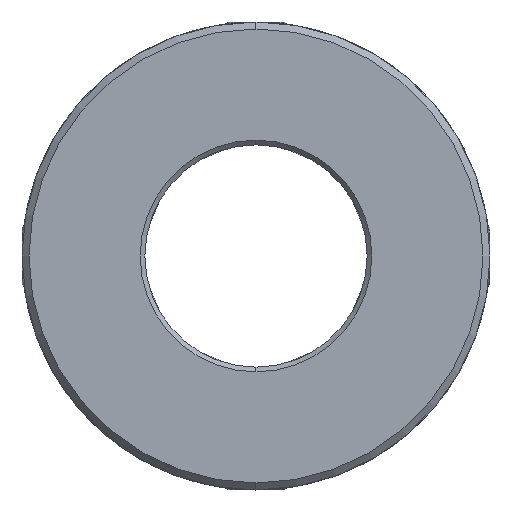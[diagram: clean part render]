
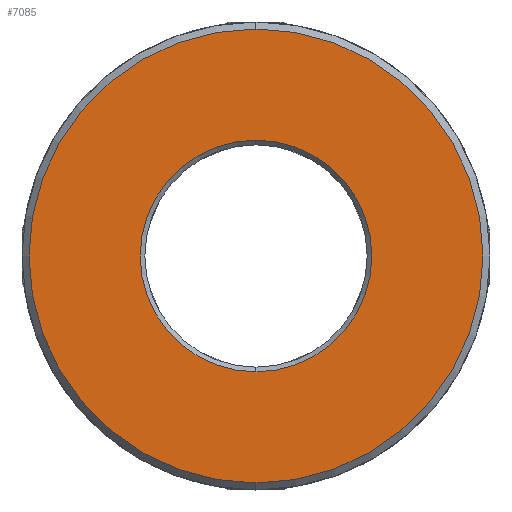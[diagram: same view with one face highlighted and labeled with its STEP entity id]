
A CAD part, front view. The second image highlights one B-rep face of the part: STEP entity #7085.
In plain terms, the highlighted planar face has unit normal (0, -1, 0).
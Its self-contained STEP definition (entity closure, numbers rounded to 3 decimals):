
#23 = AXIS2_PLACEMENT_3D ( 'NONE', #7135, #7733, #4127 ) ;
#58 = CARTESIAN_POINT ( 'NONE',  ( 0., 0., -9.9 ) ) ;
#195 = CARTESIAN_POINT ( 'NONE',  ( 0., 0., -19.4 ) ) ;
#216 = DIRECTION ( 'NONE',  ( 0., -1., 0. ) ) ;
#452 = EDGE_CURVE ( 'NONE', #3151, #5383, #6560, .T. ) ;
#910 = AXIS2_PLACEMENT_3D ( 'NONE', #5288, #5834, #6461 ) ;
#1114 = AXIS2_PLACEMENT_3D ( 'NONE', #4334, #3220, #4354 ) ;
#1915 = ORIENTED_EDGE ( 'NONE', *, *, #5166, .T. ) ;
#2946 = CARTESIAN_POINT ( 'NONE',  ( 0., 0., 19.4 ) ) ;
#3066 = EDGE_CURVE ( 'NONE', #5383, #3151, #5753, .T. ) ;
#3151 = VERTEX_POINT ( 'NONE', #58 ) ;
#3171 = CARTESIAN_POINT ( 'NONE',  ( 0., 0., 0. ) ) ;
#3220 = DIRECTION ( 'NONE',  ( 0., 1., 0. ) ) ;
#3273 = AXIS2_PLACEMENT_3D ( 'NONE', #7153, #3628, #4805 ) ;
#3628 = DIRECTION ( 'NONE',  ( 0., -1., 0. ) ) ;
#3704 = FACE_OUTER_BOUND ( 'NONE', #4908, .T. ) ;
#3803 = FACE_BOUND ( 'NONE', #4434, .T. ) ;
#4073 = CIRCLE ( 'NONE', #4167, 19.4 ) ;
#4126 = ORIENTED_EDGE ( 'NONE', *, *, #7690, .T. ) ;
#4127 = DIRECTION ( 'NONE',  ( 0., 0., 1. ) ) ;
#4167 = AXIS2_PLACEMENT_3D ( 'NONE', #3171, #216, #7365 ) ;
#4334 = CARTESIAN_POINT ( 'NONE',  ( 0., 0., 0. ) ) ;
#4354 = DIRECTION ( 'NONE',  ( 0., 0., 1. ) ) ;
#4434 = EDGE_LOOP ( 'NONE', ( #5596, #4927 ) ) ;
#4536 = PLANE ( 'NONE',  #910 ) ;
#4805 = DIRECTION ( 'NONE',  ( 0., 0., 1. ) ) ;
#4908 = EDGE_LOOP ( 'NONE', ( #1915, #4126 ) ) ;
#4927 = ORIENTED_EDGE ( 'NONE', *, *, #3066, .T. ) ;
#5166 = EDGE_CURVE ( 'NONE', #5208, #7316, #7312, .T. ) ;
#5208 = VERTEX_POINT ( 'NONE', #2946 ) ;
#5288 = CARTESIAN_POINT ( 'NONE',  ( 24.74, 0., -50. ) ) ;
#5383 = VERTEX_POINT ( 'NONE', #6761 ) ;
#5596 = ORIENTED_EDGE ( 'NONE', *, *, #452, .T. ) ;
#5753 = CIRCLE ( 'NONE', #23, 9.9 ) ;
#5834 = DIRECTION ( 'NONE',  ( 0., 1., 0. ) ) ;
#6461 = DIRECTION ( 'NONE',  ( 0., 0., 1. ) ) ;
#6560 = CIRCLE ( 'NONE', #1114, 9.9 ) ;
#6761 = CARTESIAN_POINT ( 'NONE',  ( 0., 0., 9.9 ) ) ;
#7085 = ADVANCED_FACE ( 'NONE', ( #3803, #3704 ), #4536, .F. ) ;
#7135 = CARTESIAN_POINT ( 'NONE',  ( 0., 0., 0. ) ) ;
#7153 = CARTESIAN_POINT ( 'NONE',  ( 0., 0., 0. ) ) ;
#7312 = CIRCLE ( 'NONE', #3273, 19.4 ) ;
#7316 = VERTEX_POINT ( 'NONE', #195 ) ;
#7365 = DIRECTION ( 'NONE',  ( 0., 0., 1. ) ) ;
#7690 = EDGE_CURVE ( 'NONE', #7316, #5208, #4073, .T. ) ;
#7733 = DIRECTION ( 'NONE',  ( 0., 1., 0. ) ) ;
